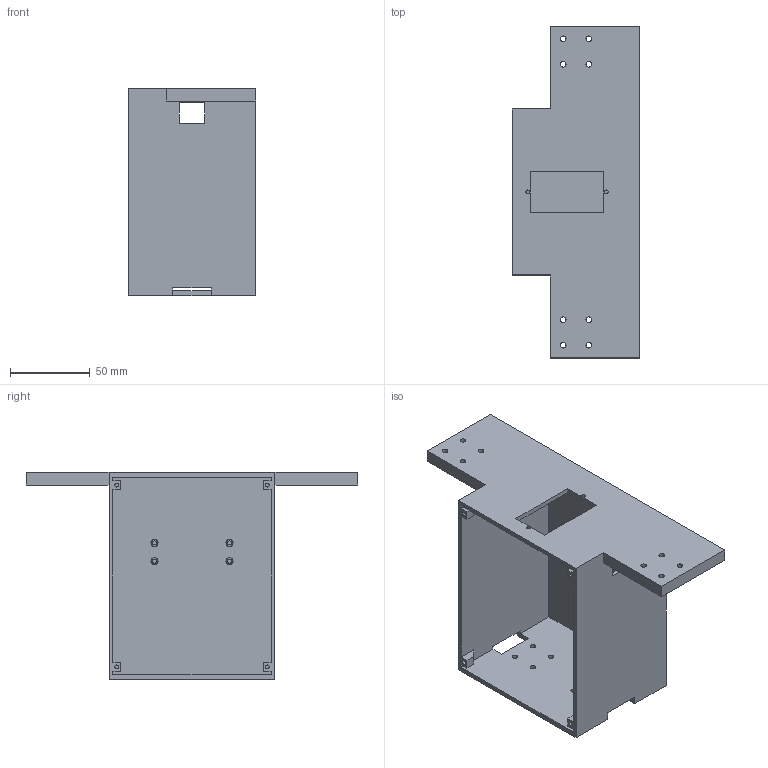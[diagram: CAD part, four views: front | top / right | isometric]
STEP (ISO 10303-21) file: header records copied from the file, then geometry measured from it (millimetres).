
FILE_DESCRIPTION(('FreeCAD Model'),'2;1');
FILE_NAME('Open CASCADE Shape Model','2026-11-08T23:31:28',('FreeCAD'),( 'FreeCAD'),'Open CASCADE STEP processor 7.8','FreeCAD','Unknown');
FILE_SCHEMA(('AUTOMOTIVE_DESIGN { 1 0 10303 214 1 1 1 1 }'));
Length unit declared in the file: millimetre
Products named in the file (1): Open CASCADE STEP translator 7.8 5
Bounding box: 80 x 208 x 130 mm (x, y, z)
Volume: 167171.2 mm3; surface area: 111326.4 mm2
Topology: 1 solids, 1 shells, 167 faces, 444 edges, 296 vertices
Faces by surface type: plane 137, cylinder 30
Full cylindrical faces by diameter (mm): 2.5 x10, 3.5 x16, 4.4 x4
Entity records: 5240 total; most frequent: CARTESIAN_POINT 908, ORIENTED_EDGE 888, DIRECTION 840, EDGE_CURVE 444, LINE 384, VECTOR 384, VERTEX_POINT 296, FACE_BOUND 230
